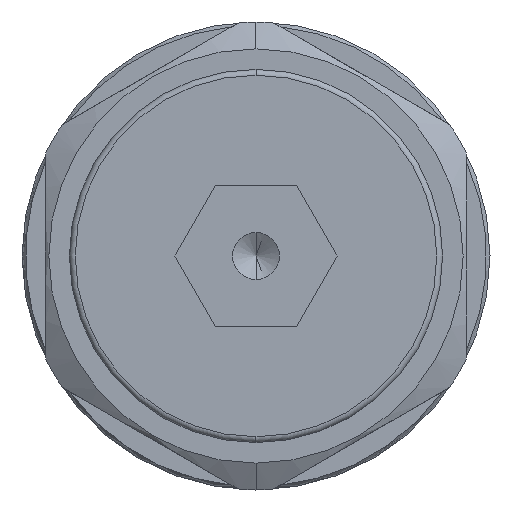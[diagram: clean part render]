
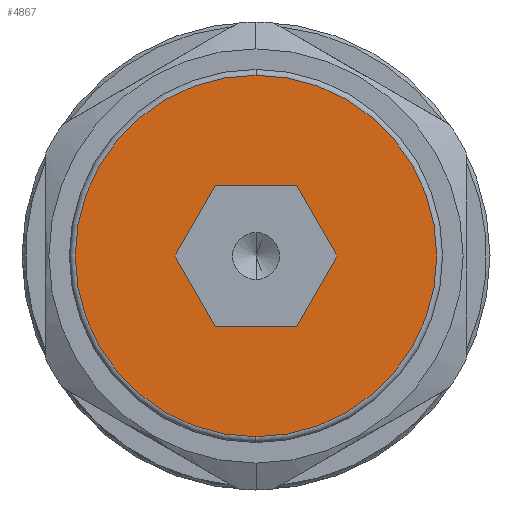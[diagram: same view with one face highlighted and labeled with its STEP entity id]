
A CAD part, left-side view. The second image highlights one B-rep face of the part: STEP entity #4867.
In plain terms, the highlighted planar face has unit normal (-1, 0, 0).
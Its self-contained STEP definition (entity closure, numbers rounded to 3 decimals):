
#79 = LINE ( 'NONE', #4936, #3390 ) ;
#236 = DIRECTION ( 'NONE',  ( 0., 0., 1. ) ) ;
#770 = LINE ( 'NONE', #7652, #7428 ) ;
#776 = EDGE_CURVE ( 'NONE', #6973, #2721, #3400, .T. ) ;
#865 = EDGE_CURVE ( 'NONE', #3130, #2561, #1540, .T. ) ;
#990 = CARTESIAN_POINT ( 'NONE',  ( -5., 0., -15.45 ) ) ;
#1185 = DIRECTION ( 'NONE',  ( 0., -0.5, -0.866 ) ) ;
#1532 = ORIENTED_EDGE ( 'NONE', *, *, #6166, .T. ) ;
#1540 = CIRCLE ( 'NONE', #3052, 15.45 ) ;
#1545 = DIRECTION ( 'NONE',  ( 0., -0.5, 0.866 ) ) ;
#1686 = CARTESIAN_POINT ( 'NONE',  ( -5., 6.928, 0. ) ) ;
#1783 = DIRECTION ( 'NONE',  ( 0., 0., 1. ) ) ;
#2021 = EDGE_CURVE ( 'NONE', #3428, #2490, #770, .T. ) ;
#2055 = CARTESIAN_POINT ( 'NONE',  ( -5., 0., 15.45 ) ) ;
#2086 = CARTESIAN_POINT ( 'NONE',  ( -5., 0., 0. ) ) ;
#2154 = VERTEX_POINT ( 'NONE', #7632 ) ;
#2263 = PLANE ( 'NONE',  #8270 ) ;
#2377 = EDGE_CURVE ( 'NONE', #2490, #2154, #79, .T. ) ;
#2380 = ORIENTED_EDGE ( 'NONE', *, *, #8802, .T. ) ;
#2445 = DIRECTION ( 'NONE',  ( 0., 0.5, -0.866 ) ) ;
#2490 = VERTEX_POINT ( 'NONE', #6725 ) ;
#2526 = VECTOR ( 'NONE', #1185, 1000. ) ;
#2561 = VERTEX_POINT ( 'NONE', #990 ) ;
#2721 = VERTEX_POINT ( 'NONE', #2783 ) ;
#2741 = EDGE_LOOP ( 'NONE', ( #7332, #2380, #5770, #1532, #6685, #4852 ) ) ;
#2761 = EDGE_CURVE ( 'NONE', #2561, #3130, #3854, .T. ) ;
#2783 = CARTESIAN_POINT ( 'NONE',  ( -5., 3.464, -6. ) ) ;
#2877 = EDGE_CURVE ( 'NONE', #2154, #5809, #5390, .T. ) ;
#2896 = ORIENTED_EDGE ( 'NONE', *, *, #2761, .T. ) ;
#2942 = CARTESIAN_POINT ( 'NONE',  ( -5., -6.928, 0. ) ) ;
#3052 = AXIS2_PLACEMENT_3D ( 'NONE', #5874, #8629, #236 ) ;
#3130 = VERTEX_POINT ( 'NONE', #2055 ) ;
#3390 = VECTOR ( 'NONE', #3718, 1000. ) ;
#3400 = LINE ( 'NONE', #4869, #7903 ) ;
#3428 = VERTEX_POINT ( 'NONE', #1686 ) ;
#3702 = VECTOR ( 'NONE', #4757, 1000. ) ;
#3718 = DIRECTION ( 'NONE',  ( 0., -1., 0. ) ) ;
#3739 = DIRECTION ( 'NONE',  ( 0., 1., 0. ) ) ;
#3854 = CIRCLE ( 'NONE', #8818, 15.45 ) ;
#4757 = DIRECTION ( 'NONE',  ( 0., 0.5, 0.866 ) ) ;
#4789 = LINE ( 'NONE', #2942, #5234 ) ;
#4852 = ORIENTED_EDGE ( 'NONE', *, *, #2377, .T. ) ;
#4867 = ADVANCED_FACE ( 'NONE', ( #6729, #7114 ), #2263, .T. ) ;
#4869 = CARTESIAN_POINT ( 'NONE',  ( -5., -3.464, -6. ) ) ;
#4936 = CARTESIAN_POINT ( 'NONE',  ( -5., 3.464, 6. ) ) ;
#5058 = DIRECTION ( 'NONE',  ( -1., 0., 0. ) ) ;
#5217 = EDGE_LOOP ( 'NONE', ( #6594, #2896 ) ) ;
#5234 = VECTOR ( 'NONE', #2445, 1000. ) ;
#5390 = LINE ( 'NONE', #8182, #2526 ) ;
#5679 = CARTESIAN_POINT ( 'NONE',  ( -5., 3.464, -6. ) ) ;
#5770 = ORIENTED_EDGE ( 'NONE', *, *, #776, .T. ) ;
#5809 = VERTEX_POINT ( 'NONE', #7117 ) ;
#5874 = CARTESIAN_POINT ( 'NONE',  ( -5., 0., 0. ) ) ;
#6166 = EDGE_CURVE ( 'NONE', #2721, #3428, #7442, .T. ) ;
#6594 = ORIENTED_EDGE ( 'NONE', *, *, #865, .T. ) ;
#6685 = ORIENTED_EDGE ( 'NONE', *, *, #2021, .T. ) ;
#6725 = CARTESIAN_POINT ( 'NONE',  ( -5., 3.464, 6. ) ) ;
#6729 = FACE_OUTER_BOUND ( 'NONE', #5217, .T. ) ;
#6973 = VERTEX_POINT ( 'NONE', #7478 ) ;
#7114 = FACE_BOUND ( 'NONE', #2741, .T. ) ;
#7117 = CARTESIAN_POINT ( 'NONE',  ( -5., -6.928, 0. ) ) ;
#7332 = ORIENTED_EDGE ( 'NONE', *, *, #2877, .T. ) ;
#7428 = VECTOR ( 'NONE', #1545, 1000. ) ;
#7442 = LINE ( 'NONE', #5679, #3702 ) ;
#7478 = CARTESIAN_POINT ( 'NONE',  ( -5., -3.464, -6. ) ) ;
#7632 = CARTESIAN_POINT ( 'NONE',  ( -5., -3.464, 6. ) ) ;
#7652 = CARTESIAN_POINT ( 'NONE',  ( -5., 6.928, 0. ) ) ;
#7721 = CARTESIAN_POINT ( 'NONE',  ( -5., 0., 0. ) ) ;
#7732 = DIRECTION ( 'NONE',  ( 0., 0., 1. ) ) ;
#7903 = VECTOR ( 'NONE', #3739, 1000. ) ;
#8182 = CARTESIAN_POINT ( 'NONE',  ( -5., -3.464, 6. ) ) ;
#8270 = AXIS2_PLACEMENT_3D ( 'NONE', #7721, #8408, #1783 ) ;
#8408 = DIRECTION ( 'NONE',  ( -1., 0., 0. ) ) ;
#8629 = DIRECTION ( 'NONE',  ( -1., 0., 0. ) ) ;
#8802 = EDGE_CURVE ( 'NONE', #5809, #6973, #4789, .T. ) ;
#8818 = AXIS2_PLACEMENT_3D ( 'NONE', #2086, #5058, #7732 ) ;
